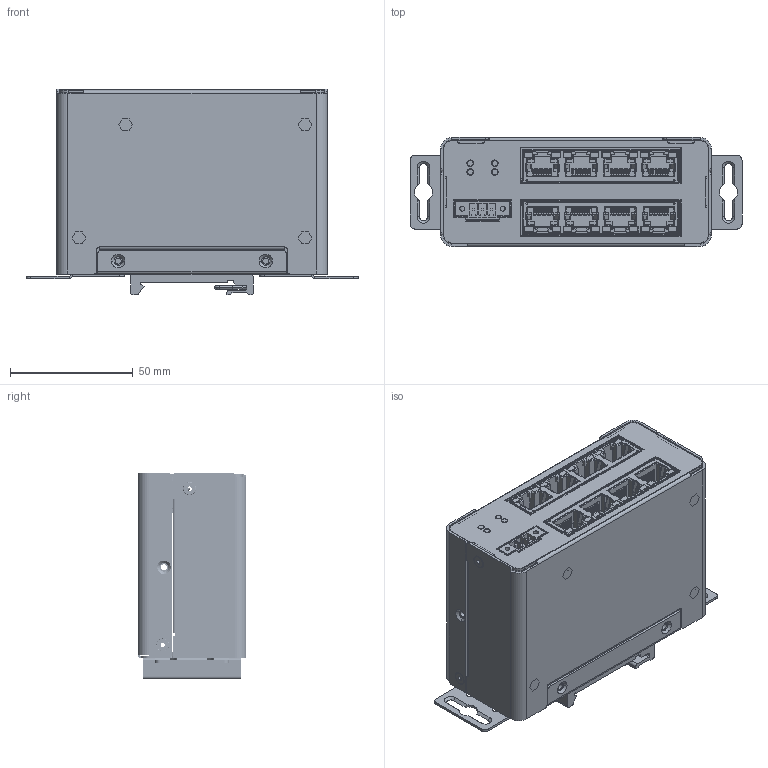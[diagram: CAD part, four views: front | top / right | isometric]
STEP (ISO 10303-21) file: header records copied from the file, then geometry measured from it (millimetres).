
FILE_DESCRIPTION((''),'2;1');
FILE_NAME('01-ZSW-8008_ASM','2026-02-05T11:35:48',('hepeizong'),(''),'CREO PARAMETRIC BY PTC INC, 2021404','CREO PARAMETRIC BY PTC INC, 2021404','');
FILE_SCHEMA(('CONFIG_CONTROL_DESIGN','SHAPE_APPEARANCE_LAYERS_GROUPS'));
Products named in the file (32): T_1_1; SU_1_1; LED_1_1; LED2_1_1; CT_1_1; Y_1_1; Y2_1_1; Y_ASM_1_ASM_1_ASM; DGKYD561488DB3A1DY1027_ASM_1_AS_ASM; DGKYD561488AB1A3DY1027_ASM_1_ASM; 20_05_00042ST-RJ-K0001_ASM; NONE-24; NONE-2421; LEM-207V0F_1_ASM; 03-ZSW-8008-PCB-TOP_ASM; 2ERJRM-3P; 03-ZSW-8008-PCB-BOT_ASM; 02-ZSW-8008-PCB_ASM; 02-BOT-COVER-2; NUT_M3_6; _M30001; NUT-M3; 02-BOT-COVER-ASM_ASM; 02-TOP-COVER-2; 02-TOP-COVER_ASM; GUAER; 03-MYLAR; 02-ZSW-8008-ME_ASM; GAOGUI-1__3_1_1; GAOGUI-2__2_1_1; DAOGUI-_ASM_3_ASM_1_ASM_1_ASM; 01-ZSW-8008_ASM
Assembly tree (69 placements, depth 8):
  01-ZSW-8008_ASM
    02-ZSW-8008-PCB_ASM
      03-ZSW-8008-PCB-TOP_ASM
        20_05_00042ST-RJ-K0001_ASM
          DGKYD561488AB1A3DY1027_ASM_1_ASM
            DGKYD561488DB3A1DY1027_ASM_1_AS_ASM
              T_1_1
              SU_1_1
              LED_1_1  x4
              LED2_1_1  x4
              CT_1_1  x4
              Y_ASM_1_ASM_1_ASM  x4
                Y_1_1
                Y2_1_1
        LEM-207V0F_1_ASM  x2
          NONE-24
          NONE-2421
      03-ZSW-8008-PCB-BOT_ASM
        20_05_00042ST-RJ-K0001_ASM
          DGKYD561488AB1A3DY1027_ASM_1_ASM
            DGKYD561488DB3A1DY1027_ASM_1_AS_ASM
              T_1_1
              SU_1_1
              LED_1_1  x4
              LED2_1_1  x4
              CT_1_1  x4
              Y_ASM_1_ASM_1_ASM  x4
                Y_1_1
                Y2_1_1
        2ERJRM-3P
    02-ZSW-8008-ME_ASM
      02-BOT-COVER-ASM_ASM
        02-BOT-COVER-2
        NUT_M3_6  x4
        _M30001  x2
        NUT-M3  x4
      02-TOP-COVER_ASM
        02-TOP-COVER-2
        _M30001  x2
        NUT-M3  x8
      GUAER  x2
      03-MYLAR
    DAOGUI-_ASM_3_ASM_1_ASM_1_ASM
      GAOGUI-1__3_1_1
      GAOGUI-2__2_1_1
Bounding box: 135 x 44.2 x 83.7 mm (x, y, z)
Volume: 56888.5 mm3; surface area: 119931.6 mm2
Topology: 128 solids, 128 shells, 6853 faces, 18566 edges, 11836 vertices
Faces by surface type: plane 4783, cylinder 1610, torus 310, cone 76, bspline 62, sphere 12
Entity records: 88141 total; most frequent: CARTESIAN_POINT 17303, ORIENTED_EDGE 13870, DIRECTION 13300, EDGE_CURVE 6935, VECTOR 5462, LINE 5462, VERTEX_POINT 4425, AXIS2_PLACEMENT_3D 3919
